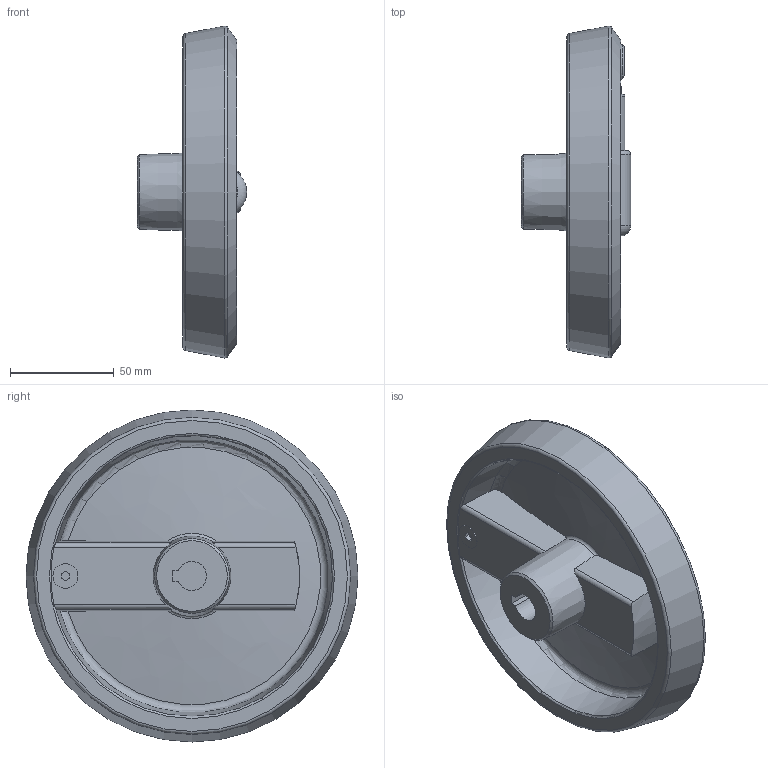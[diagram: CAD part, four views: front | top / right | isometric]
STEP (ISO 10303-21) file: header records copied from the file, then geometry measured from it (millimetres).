
FILE_DESCRIPTION( ( 'STEP AP203' ), '1' );
FILE_NAME( 'C:/Temp/Ganter_Step_05_03_2020/data/1_3/gn_923_7/gn_923_7_b/Handwheel with retractable handle GN 923.7-160-B14-R-SW (unactivated).stp', '2020-03-05T10:40:06', ( 'License CC BY-ND 4.0' ), ( 'CADENAS' ), ' ', 'PARTsolutions', ' ' );
FILE_SCHEMA( ( 'CONFIG_CONTROL_DESIGN' ) );
Length unit declared in the file: millimetre
Products named in the file (3): Handwheel with retractable handle GN 923.7-160-B14-R-SW (unactivated); _Umleggriff-Handrad GN 923.7-160-B14-R-SW-1; _Umleggriff-Handrad GN 923.7-160-B14-R-SW (0)-2
Assembly tree (2 placements, depth 2):
  Handwheel with retractable handle GN 923.7-160-B14-R-SW (unactivated)
    _Umleggriff-Handrad GN 923.7-160-B14-R-SW-1
    _Umleggriff-Handrad GN 923.7-160-B14-R-SW (0)-2
Bounding box: 52.7 x 160 x 160 mm (x, y, z)
Volume: 262977.5 mm3; surface area: 78245.4 mm2
Topology: 2 solids, 2 shells, 111 faces, 268 edges, 169 vertices
Faces by surface type: plane 48, cylinder 29, torus 14, cone 12, bspline 6, sphere 2
Full cylindrical faces by diameter (mm): 4 x2, 5 x1, 8 x1, 12 x1, 15 x1, 18.5 x1, 20 x1, 23 x2, 24 x1
Entity records: 3625 total; most frequent: CARTESIAN_POINT 1100, DIRECTION 505, ORIENTED_EDGE 470, EDGE_CURVE 235, AXIS2_PLACEMENT_3D 212, VERTEX_POINT 163, EDGE_LOOP 147, FACE_OUTER_BOUND 129
